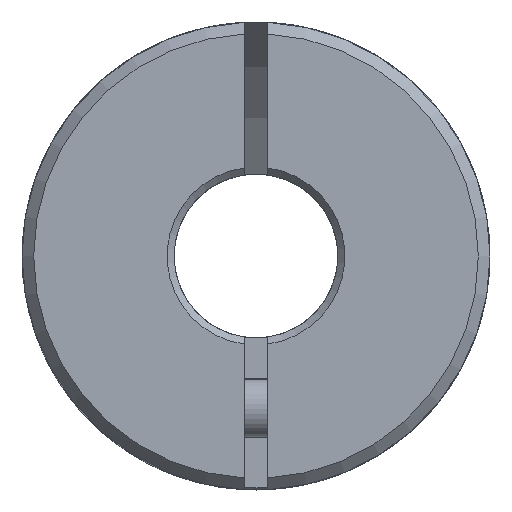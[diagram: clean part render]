
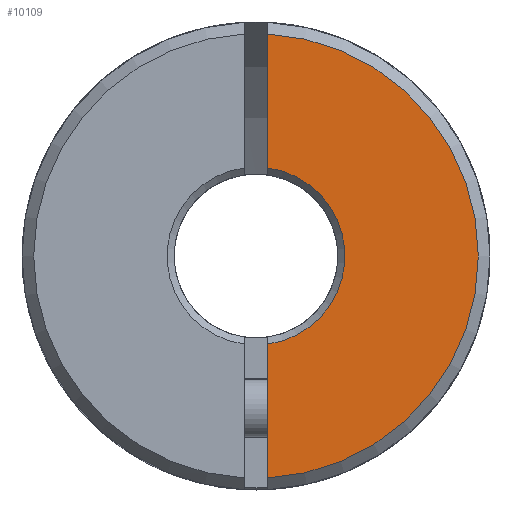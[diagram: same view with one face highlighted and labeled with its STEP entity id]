
A CAD part, front view. The second image highlights one B-rep face of the part: STEP entity #10109.
In plain terms, the highlighted planar face has unit normal (0, -1, 0).
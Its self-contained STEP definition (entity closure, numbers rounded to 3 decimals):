
#71 = CARTESIAN_POINT ( 'NONE',  ( 0.5, -33., 9.487 ) ) ;
#174 = EDGE_LOOP ( 'NONE', ( #7708, #4304, #1541, #9187 ) ) ;
#381 = LINE ( 'NONE', #8248, #5422 ) ;
#649 = DIRECTION ( 'NONE',  ( 0., 0., -1. ) ) ;
#727 = CARTESIAN_POINT ( 'NONE',  ( 0.5, -33., -9.487 ) ) ;
#989 = DIRECTION ( 'NONE',  ( 0., 0., -1. ) ) ;
#1162 = AXIS2_PLACEMENT_3D ( 'NONE', #5436, #8596, #649 ) ;
#1219 = EDGE_CURVE ( 'NONE', #5336, #2527, #1942, .T. ) ;
#1541 = ORIENTED_EDGE ( 'NONE', *, *, #7290, .F. ) ;
#1718 = CARTESIAN_POINT ( 'NONE',  ( 0.5, -33., -12.292 ) ) ;
#1834 = CIRCLE ( 'NONE', #2880, 9.5 ) ;
#1942 = LINE ( 'NONE', #1718, #5161 ) ;
#2114 = CARTESIAN_POINT ( 'NONE',  ( 0.5, -33., 3.767 ) ) ;
#2203 = DIRECTION ( 'NONE',  ( 0., -1., 0. ) ) ;
#2527 = VERTEX_POINT ( 'NONE', #4544 ) ;
#2713 = DIRECTION ( 'NONE',  ( 0., 0., 1. ) ) ;
#2880 = AXIS2_PLACEMENT_3D ( 'NONE', #6851, #2203, #6089 ) ;
#3427 = FACE_OUTER_BOUND ( 'NONE', #174, .T. ) ;
#4104 = DIRECTION ( 'NONE',  ( 0., 0., 1. ) ) ;
#4304 = ORIENTED_EDGE ( 'NONE', *, *, #7883, .T. ) ;
#4544 = CARTESIAN_POINT ( 'NONE',  ( 0.5, -33., -3.767 ) ) ;
#4938 = CARTESIAN_POINT ( 'NONE',  ( 50., -33., -12.292 ) ) ;
#5161 = VECTOR ( 'NONE', #4104, 1000. ) ;
#5336 = VERTEX_POINT ( 'NONE', #727 ) ;
#5422 = VECTOR ( 'NONE', #2713, 1000. ) ;
#5436 = CARTESIAN_POINT ( 'NONE',  ( 0., -33., 0. ) ) ;
#5541 = EDGE_CURVE ( 'NONE', #10245, #2527, #6464, .T. ) ;
#6089 = DIRECTION ( 'NONE',  ( 0., 0., -1. ) ) ;
#6464 = CIRCLE ( 'NONE', #1162, 3.8 ) ;
#6547 = PLANE ( 'NONE',  #8226 ) ;
#6851 = CARTESIAN_POINT ( 'NONE',  ( 0., -33., 0. ) ) ;
#7290 = EDGE_CURVE ( 'NONE', #10245, #9186, #381, .T. ) ;
#7708 = ORIENTED_EDGE ( 'NONE', *, *, #1219, .F. ) ;
#7883 = EDGE_CURVE ( 'NONE', #5336, #9186, #1834, .T. ) ;
#8145 = DIRECTION ( 'NONE',  ( 0., 1., 0. ) ) ;
#8226 = AXIS2_PLACEMENT_3D ( 'NONE', #4938, #8145, #989 ) ;
#8248 = CARTESIAN_POINT ( 'NONE',  ( 0.5, -33., -12.292 ) ) ;
#8596 = DIRECTION ( 'NONE',  ( 0., 1., 0. ) ) ;
#9186 = VERTEX_POINT ( 'NONE', #71 ) ;
#9187 = ORIENTED_EDGE ( 'NONE', *, *, #5541, .T. ) ;
#10109 = ADVANCED_FACE ( 'NONE', ( #3427 ), #6547, .F. ) ;
#10245 = VERTEX_POINT ( 'NONE', #2114 ) ;
